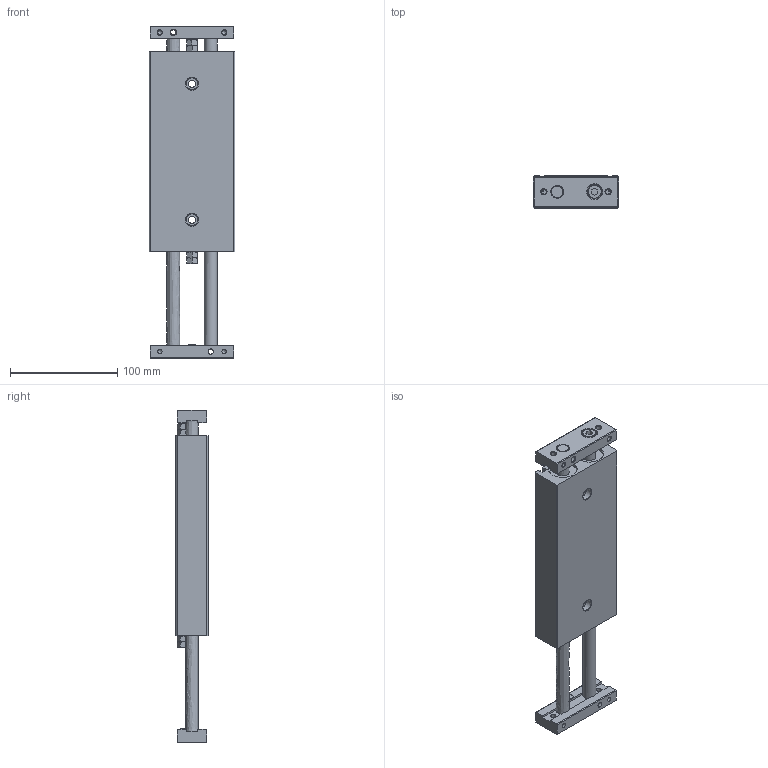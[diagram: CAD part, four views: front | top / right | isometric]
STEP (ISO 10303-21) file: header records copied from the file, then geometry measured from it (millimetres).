
FILE_DESCRIPTION((''),'2;1');
FILE_NAME('I:\3D電子目錄\氣缸\STX\STX\STX25\STX25x75.stp','2007-10-02T09:08:39',('Administrator'),(''),'Autodesk Inventor 11','Autodesk Inventor 11','');
FILE_SCHEMA(('AUTOMOTIVE_DESIGN { 1 0 10303 214 1 1 1 1 }'));
Length unit declared in the file: millimetre
Products named in the file (1): STX25
Bounding box: 80 x 30 x 310 mm (x, y, z)
Volume: 495847 mm3; surface area: 80801.5 mm2
Topology: 1 solids, 1 shells, 274 faces, 653 edges, 406 vertices
Faces by surface type: plane 127, cone 75, bspline 46, cylinder 22, torus 4
Full cylindrical faces by diameter (mm): 4.134 x4, 6 x2, 11 x2, 12 x4, 12.2 x2, 13 x2, 14 x2, 26 x2, 27.4 x2
Entity records: 8035 total; most frequent: CARTESIAN_POINT 2555, ORIENTED_EDGE 1058, DIRECTION 1056, EDGE_CURVE 529, EDGE_LOOP 420, AXIS2_PLACEMENT_3D 402, VERTEX_POINT 373, FACE_OUTER_BOUND 274
